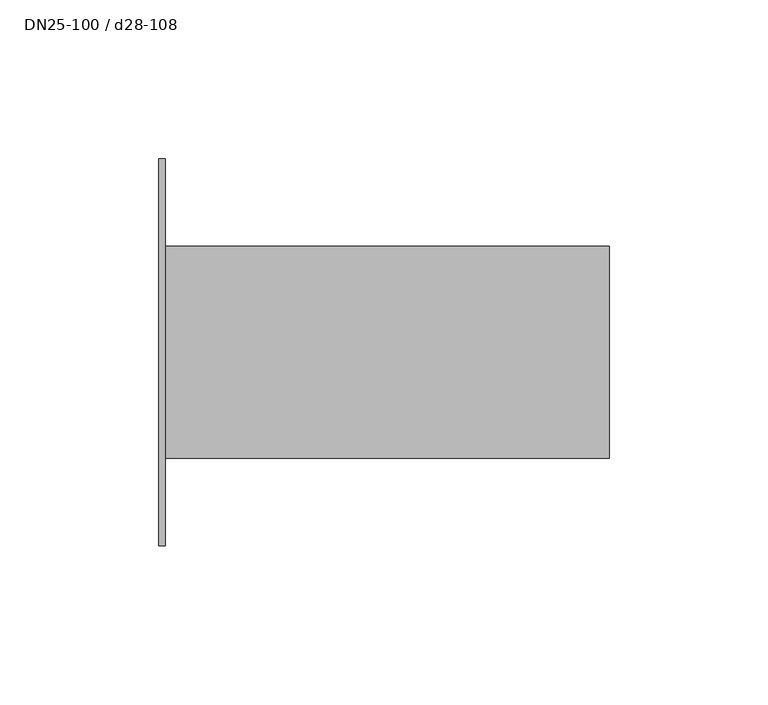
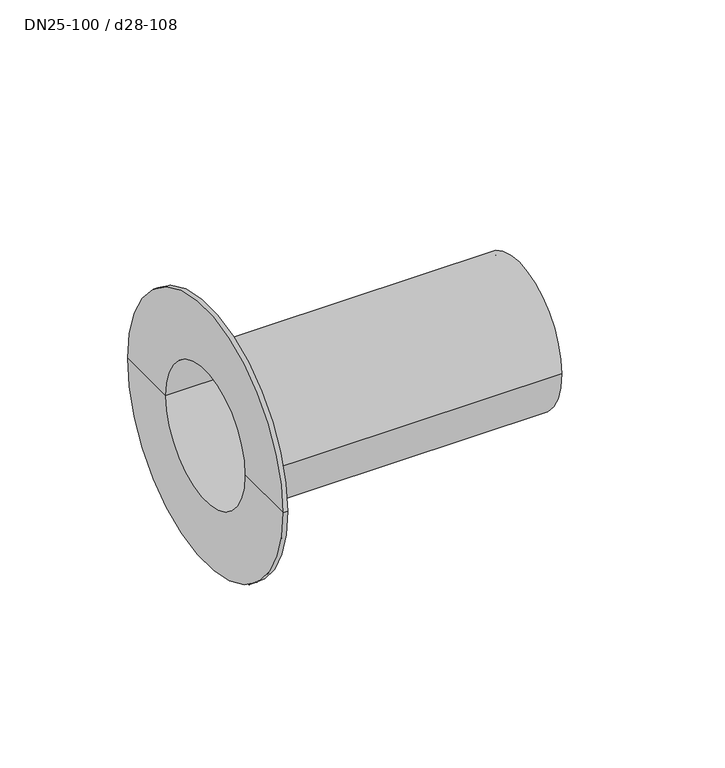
"""IFC4 building model written with IfcOpenShell, lengths in millimetres: pipe fitting geometry, NLRS_50_PIF_UN_Mapress koper flenskraag met insteekeinde, voor losse flens PN 10_16_geb : DN25-100 / d28-108."""

from ifc_helpers import new_model, si_unit, frame, origin, place, context, project, spatial, polyline, circle_curve, source, transform, mapped, element, save
from ifc_brep_helpers import plane_surface, cylinder_surface, revolved_surface, advanced_brep


def dn25_100_d28_108_3f39c27f(model_context):
    return source(origin(), model_context, "Body", "AdvancedBrep", [
        advanced_brep(
        [(0.0, -61.0, 0.0), (0.0, 61.0, 0.0), (0.0, 33.35, 0.0), (0.0, -33.35, 0.0), (-2.0, -61.0, 0.0), (-2.0, 61.0, 0.0), (-2.0, -31.35, 0.0), (-2.0, 31.35, 0.0), (140.0, -33.35, 0.0), (140.0, 33.35, 0.0), (140.0, 31.35, 0.0), (140.0, -31.35, 0.0)],
        [
            (0, 1, circle_curve(frame((0.0, 0.0, 0.0), z_axis=(1.0, 0.0, 0.0), x_axis=(0.0, 1.0, 0.0)), 61.0)),
            (1, 2),
            (2, 3, circle_curve(frame((0.0, 0.0, 0.0), z_axis=(-1.0, 0.0, 0.0), x_axis=(0.0, 1.0, 0.0)), 33.35)),
            (3, 0),
            (1, 0, circle_curve(frame((0.0, 0.0, 0.0), z_axis=(1.0, 0.0, 0.0), x_axis=(0.0, 1.0, 0.0)), 61.0)),
            (3, 2, circle_curve(frame((0.0, 0.0, 0.0), z_axis=(-1.0, 0.0, 0.0), x_axis=(0.0, 1.0, 0.0)), 33.35)),
            (4, 5, circle_curve(frame((-2.0, 0.0, 0.0), z_axis=(1.0, 0.0, 0.0), x_axis=(0.0, 1.0, 0.0)), 61.0)),
            (5, 1),
            (0, 4),
            (5, 4, circle_curve(frame((-2.0, 0.0, 0.0), z_axis=(1.0, 0.0, 0.0), x_axis=(0.0, 1.0, 0.0)), 61.0)),
            (6, 7, circle_curve(frame((-2.0, 0.0, 0.0), z_axis=(1.0, 0.0, 0.0), x_axis=(0.0, 1.0, 0.0)), 31.35)),
            (7, 5),
            (4, 6),
            (7, 6, circle_curve(frame((-2.0, 0.0, 0.0), z_axis=(1.0, 0.0, 0.0), x_axis=(0.0, 1.0, 0.0)), 31.35)),
            (8, 9, circle_curve(frame((140.0, 0.0, 0.0), z_axis=(1.0, 0.0, 0.0), x_axis=(0.0, 1.0, 0.0)), 33.35)),
            (9, 10),
            (10, 11, circle_curve(frame((140.0, 0.0, 0.0), z_axis=(-1.0, 0.0, 0.0), x_axis=(0.0, 1.0, 0.0)), 31.35)),
            (11, 8),
            (9, 8, circle_curve(frame((140.0, 0.0, 0.0), z_axis=(1.0, 0.0, 0.0), x_axis=(0.0, 1.0, 0.0)), 33.35)),
            (11, 10, circle_curve(frame((140.0, 0.0, 0.0), z_axis=(-1.0, 0.0, 0.0), x_axis=(0.0, 1.0, 0.0)), 31.35)),
            (10, 7),
            (6, 11),
            (2, 9),
            (8, 3),
        ],
        [
            plane_surface(frame((0.0, 0.0, 0.0), z_axis=(1.0, 0.0, 0.0), x_axis=(0.0, 1.0, 0.0))),
            cylinder_surface(frame((-2.0, 0.0, 0.0), z_axis=(-1.0, 0.0, 0.0), x_axis=(0.0, 1.0, 0.0)), 61.0),
            plane_surface(frame((-2.0, 0.0, 0.0), z_axis=(-1.0, 0.0, 0.0), x_axis=(0.0, 1.0, 0.0))),
            plane_surface(frame((140.0, 0.0, 0.0), z_axis=(1.0, 0.0, 0.0), x_axis=(0.0, 1.0, 0.0))),
            revolved_surface(polyline([(-2.0, 31.35, 0.0), (140.0, 31.35, 0.0)]), (-2.0, 0.0, 0.0), (-1.0, 0.0, 0.0)),
            cylinder_surface(frame((-2.0, 0.0, 0.0), z_axis=(-1.0, 0.0, 0.0), x_axis=(0.0, 1.0, 0.0)), 33.35),
        ],
        [
            (0, [[1, 2, 3, 4]]),
            (0, [[5, -4, 6, -2]]),
            (1, [[7, 8, -1, 9]]),
            (1, [[10, -9, -5, -8]]),
            (2, [[11, 12, -7, 13]]),
            (2, [[14, -13, -10, -12]]),
            (3, [[15, 16, 17, 18]]),
            (3, [[19, -18, 20, -16]]),
            (4, [[-17, 21, -11, 22]]),
            (4, [[-20, -22, -14, -21]]),
            (5, [[-3, 23, -15, 24]]),
            (5, [[-6, -24, -19, -23]]),
        ],
    ),
    ])


if __name__ == "__main__":
    model = new_model("IFC4")
    model_context = context("Model", 3, world=origin())
    ifc_project = project(units=[si_unit("LENGTHUNIT", "METRE", prefix="MILLI")], contexts=[model_context])
    site = spatial("IfcSite", under=ifc_project)
    building = spatial("IfcBuilding", under=site)
    placement = place(None, origin())
    dn25_100_d28_108_shape = dn25_100_d28_108_3f39c27f(model_context)
    element("IfcPipeFitting", 1, ObjectType="NLRS_50_PIF_UN_Mapress koper flenskraag met insteekeinde, voor losse flens PN 10_16_geb : DN25-100 / d28-108", at=placement, inside=building, context=model_context, shape_type="MappedRepresentation", body=[
        mapped(dn25_100_d28_108_shape, transform((0.0, 0.0, 0.0), x_axis=(1.0, 0.0, 0.0), y_axis=(0.0, 1.0, 0.0), z_axis=(0.0, 0.0, 1.0))),
    ])
    save(model, "model.ifc")
